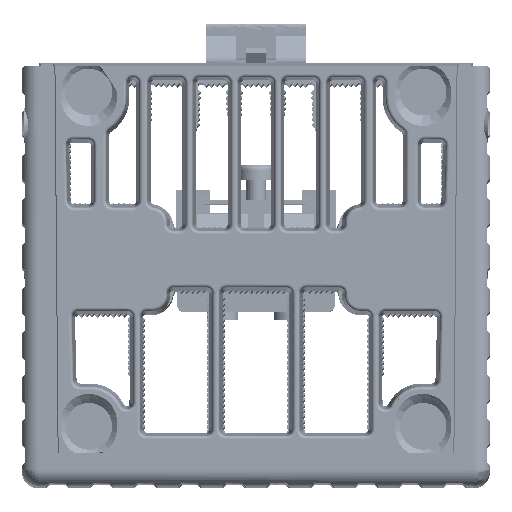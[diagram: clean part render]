
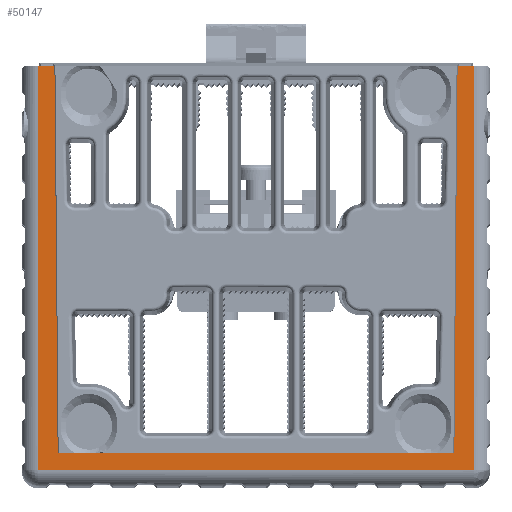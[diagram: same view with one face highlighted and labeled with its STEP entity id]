
A CAD part, top view. The second image highlights one B-rep face of the part: STEP entity #50147.
In plain terms, the highlighted planar face has unit normal (0, 0, 1).
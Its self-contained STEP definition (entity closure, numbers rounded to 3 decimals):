
#9164=ORIENTED_EDGE('',*,*,#21072,.T.);
#9165=ORIENTED_EDGE('',*,*,#21188,.F.);
#9166=ORIENTED_EDGE('',*,*,#19102,.F.);
#9167=ORIENTED_EDGE('',*,*,#21187,.T.);
#9168=ORIENTED_EDGE('',*,*,#21182,.T.);
#9169=ORIENTED_EDGE('',*,*,#21189,.F.);
#9170=ORIENTED_EDGE('',*,*,#19378,.T.);
#9171=ORIENTED_EDGE('',*,*,#21124,.T.);
#19102=EDGE_CURVE('',#26512,#26513,#31405,.T.);
#19378=EDGE_CURVE('',#26741,#26740,#31526,.T.);
#21072=EDGE_CURVE('',#27743,#27742,#32556,.T.);
#21124=EDGE_CURVE('',#26740,#27743,#32592,.T.);
#21182=EDGE_CURVE('',#27757,#27756,#32633,.T.);
#21187=EDGE_CURVE('',#26512,#27757,#32638,.T.);
#21188=EDGE_CURVE('',#26513,#27742,#32639,.T.);
#21189=EDGE_CURVE('',#26741,#27756,#32640,.T.);
#26512=VERTEX_POINT('',#70765);
#26513=VERTEX_POINT('',#70766);
#26740=VERTEX_POINT('',#71642);
#26741=VERTEX_POINT('',#71644);
#27742=VERTEX_POINT('',#76386);
#27743=VERTEX_POINT('',#76388);
#27756=VERTEX_POINT('',#77205);
#27757=VERTEX_POINT('',#77207);
#31405=LINE('',#70764,#36918);
#31526=LINE('',#71643,#37039);
#32556=LINE('',#76387,#38069);
#32592=LINE('',#76517,#38105);
#32633=LINE('',#77206,#38146);
#32638=LINE('',#77216,#38151);
#32639=LINE('',#77218,#38152);
#32640=LINE('',#77219,#38153);
#36918=VECTOR('',#57338,1000.);
#37039=VECTOR('',#57765,1000.);
#38069=VECTOR('',#60821,1000.);
#38105=VECTOR('',#60957,1000.);
#38146=VECTOR('',#61132,1000.);
#38151=VECTOR('',#61143,1000.);
#38152=VECTOR('',#61146,1000.);
#38153=VECTOR('',#61147,1000.);
#42802=EDGE_LOOP('',(#9164,#9165,#9166,#9167,#9168,#9169,#9170,#9171));
#45550=FACE_BOUND('',#42802,.T.);
#47900=PLANE('',#53751);
#50147=ADVANCED_FACE('',(#45550),#47900,.T.);
#53751=AXIS2_PLACEMENT_3D('',#77217,#61144,#61145);
#57338=DIRECTION('',(0.008,1.,0.));
#57765=DIRECTION('',(0.,-1.,0.));
#60821=DIRECTION('',(0.,1.,0.));
#60957=DIRECTION('',(1.,0.,0.));
#61132=DIRECTION('',(-0.008,1.,0.));
#61143=DIRECTION('',(-1.,0.,0.));
#61144=DIRECTION('',(0.,0.,1.));
#61145=DIRECTION('',(1.,0.,0.));
#61146=DIRECTION('',(1.,0.,0.));
#61147=DIRECTION('',(1.,0.,0.));
#70764=CARTESIAN_POINT('',(781.645,240.308,37.));
#70765=CARTESIAN_POINT('',(781.405,211.412,37.));
#70766=CARTESIAN_POINT('',(781.885,269.204,37.));
#71642=CARTESIAN_POINT('',(719.135,208.812,37.));
#71643=CARTESIAN_POINT('',(719.135,239.008,37.));
#71644=CARTESIAN_POINT('',(719.135,269.204,37.));
#76386=CARTESIAN_POINT('',(784.335,269.204,37.));
#76387=CARTESIAN_POINT('',(784.335,239.008,37.));
#76388=CARTESIAN_POINT('',(784.335,208.812,37.));
#76517=CARTESIAN_POINT('',(751.735,208.812,37.));
#77205=CARTESIAN_POINT('',(721.585,269.204,37.));
#77206=CARTESIAN_POINT('',(721.824,240.308,37.));
#77207=CARTESIAN_POINT('',(722.064,211.412,37.));
#77216=CARTESIAN_POINT('',(751.735,211.412,37.));
#77217=CARTESIAN_POINT('',(719.135,208.812,37.));
#77218=CARTESIAN_POINT('',(783.06,269.204,37.));
#77219=CARTESIAN_POINT('',(720.41,269.204,37.));
